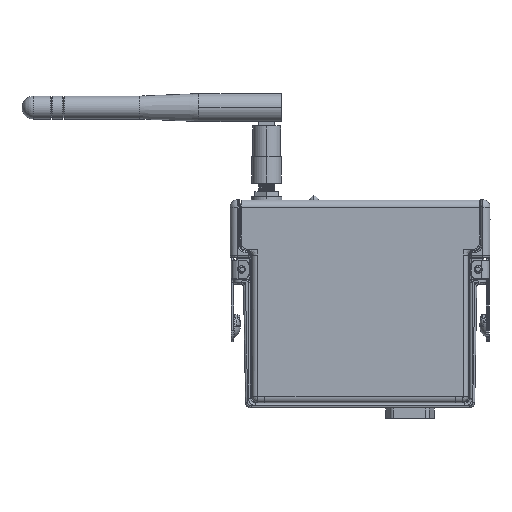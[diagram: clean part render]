
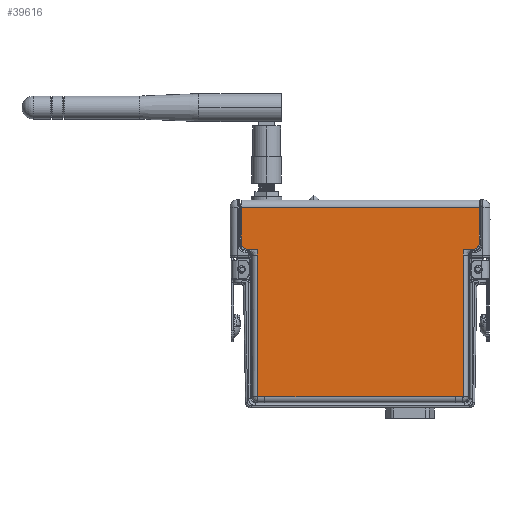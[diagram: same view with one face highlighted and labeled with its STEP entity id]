
A CAD part, left-side view. The second image highlights one B-rep face of the part: STEP entity #39616.
In plain terms, the highlighted planar face has unit normal (-1, 0, 0) as drawn and (0, 0, 1) by its records, which use the part's own axes.
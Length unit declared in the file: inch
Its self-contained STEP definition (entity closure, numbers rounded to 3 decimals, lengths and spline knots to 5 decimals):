
#38154=DIRECTION('',(-1.,0.,0.));
#38155=VECTOR('',#38154,3.179);
#38156=CARTESIAN_POINT('',(1.5895,-1.255,0.));
#38157=LINE('',#38156,#38155);
#38212=CARTESIAN_POINT('',(1.5095,-0.779,0.));
#38213=DIRECTION('',(0.,0.,1.));
#38214=DIRECTION('',(1.,0.,0.));
#38215=AXIS2_PLACEMENT_3D('',#38212,#38213,#38214);
#38217=DIRECTION('',(-1.,0.,0.));
#38218=VECTOR('',#38217,0.133);
#38219=CARTESIAN_POINT('',(1.5095,-0.699,0.));
#38220=LINE('',#38219,#38218);
#38229=DIRECTION('',(0.,1.,0.));
#38230=VECTOR('',#38229,0.476);
#38231=CARTESIAN_POINT('',(1.5895,-1.255,0.));
#38232=LINE('',#38231,#38230);
#38233=DIRECTION('',(0.,-1.,0.));
#38234=VECTOR('',#38233,0.476);
#38235=CARTESIAN_POINT('',(-1.5895,-0.779,0.));
#38236=LINE('',#38235,#38234);
#38237=DIRECTION('',(0.,-1.,0.));
#38238=VECTOR('',#38237,0.079);
#38239=CARTESIAN_POINT('',(-1.3765,-0.62,0.));
#38240=LINE('',#38239,#38238);
#38241=DIRECTION('',(-1.,0.,0.));
#38242=VECTOR('',#38241,0.105);
#38243=CARTESIAN_POINT('',(-1.2715,1.275,0.));
#38244=LINE('',#38243,#38242);
#38245=DIRECTION('',(-1.,0.,0.));
#38246=VECTOR('',#38245,0.105);
#38247=CARTESIAN_POINT('',(1.3765,1.275,0.));
#38248=LINE('',#38247,#38246);
#38249=DIRECTION('',(0.,-1.,0.));
#38250=VECTOR('',#38249,0.079);
#38251=CARTESIAN_POINT('',(1.3765,-0.62,0.));
#38252=LINE('',#38251,#38250);
#38270=CARTESIAN_POINT('',(-1.5095,-0.779,0.));
#38271=DIRECTION('',(0.,0.,1.));
#38272=DIRECTION('',(0.,1.,0.));
#38273=AXIS2_PLACEMENT_3D('',#38270,#38271,#38272);
#38307=DIRECTION('',(0.,-1.,0.));
#38308=VECTOR('',#38307,1.895);
#38309=CARTESIAN_POINT('',(1.3765,1.275,0.));
#38310=LINE('',#38309,#38308);
#38366=DIRECTION('',(-1.,0.,0.));
#38367=VECTOR('',#38366,2.543);
#38368=CARTESIAN_POINT('',(1.2715,1.275,0.));
#38369=LINE('',#38368,#38367);
#38382=DIRECTION('',(0.,-1.,0.));
#38383=VECTOR('',#38382,1.895);
#38384=CARTESIAN_POINT('',(-1.3765,1.275,0.));
#38385=LINE('',#38384,#38383);
#38417=DIRECTION('',(-1.,0.,0.));
#38418=VECTOR('',#38417,0.133);
#38419=CARTESIAN_POINT('',(-1.3765,-0.699,0.));
#38420=LINE('',#38419,#38418);
#39205=CARTESIAN_POINT('',(-1.5895,-1.255,0.));
#39206=VERTEX_POINT('',#39205);
#39207=CARTESIAN_POINT('',(1.5895,-1.255,0.));
#39208=VERTEX_POINT('',#39207);
#39237=CARTESIAN_POINT('',(1.2715,1.275,0.));
#39238=CARTESIAN_POINT('',(-1.2715,1.275,0.));
#39239=VERTEX_POINT('',#39237);
#39240=VERTEX_POINT('',#39238);
#39249=CARTESIAN_POINT('',(-1.3765,1.275,0.));
#39250=VERTEX_POINT('',#39249);
#39261=CARTESIAN_POINT('',(1.3765,1.275,0.));
#39262=VERTEX_POINT('',#39261);
#39318=CARTESIAN_POINT('',(1.5095,-0.699,0.));
#39320=VERTEX_POINT('',#39318);
#39323=CARTESIAN_POINT('',(1.5895,-0.779,0.));
#39324=VERTEX_POINT('',#39323);
#39326=CARTESIAN_POINT('',(-1.5895,-0.779,0.));
#39328=VERTEX_POINT('',#39326);
#39331=CARTESIAN_POINT('',(-1.5095,-0.699,0.));
#39332=VERTEX_POINT('',#39331);
#39353=CARTESIAN_POINT('',(-1.3765,-0.62,0.));
#39354=VERTEX_POINT('',#39353);
#39357=CARTESIAN_POINT('',(-1.3765,-0.699,0.));
#39358=VERTEX_POINT('',#39357);
#39365=CARTESIAN_POINT('',(1.3765,-0.62,0.));
#39366=CARTESIAN_POINT('',(1.3765,-0.699,0.));
#39367=VERTEX_POINT('',#39365);
#39368=VERTEX_POINT('',#39366);
#39585=CARTESIAN_POINT('',(0.,0.,0.));
#39586=DIRECTION('',(0.,0.,1.));
#39587=DIRECTION('',(1.,0.,0.));
#39588=AXIS2_PLACEMENT_3D('',#39585,#39586,#39587);
#39589=PLANE('',#39588);
#39590=ORIENTED_EDGE('',*,*,#39565,.F.);
#39591=ORIENTED_EDGE('',*,*,#39550,.F.);
#39592=ORIENTED_EDGE('',*,*,#39477,.T.);
#39594=ORIENTED_EDGE('',*,*,#39593,.F.);
#39596=ORIENTED_EDGE('',*,*,#39595,.F.);
#39598=ORIENTED_EDGE('',*,*,#39597,.F.);
#39600=ORIENTED_EDGE('',*,*,#39599,.F.);
#39602=ORIENTED_EDGE('',*,*,#39601,.F.);
#39604=ORIENTED_EDGE('',*,*,#39603,.F.);
#39606=ORIENTED_EDGE('',*,*,#39605,.F.);
#39608=ORIENTED_EDGE('',*,*,#39607,.F.);
#39610=ORIENTED_EDGE('',*,*,#39609,.T.);
#39612=ORIENTED_EDGE('',*,*,#39611,.T.);
#39613=ORIENTED_EDGE('',*,*,#39576,.F.);
#39614=EDGE_LOOP('',(#39590,#39591,#39592,#39594,#39596,#39598,#39600,#39602,
#39604,#39606,#39608,#39610,#39612,#39613));
#39615=FACE_OUTER_BOUND('',#39614,.F.);
#39616=ADVANCED_FACE('',(#39615),#39589,.T.);
#38216=CIRCLE('',#38215,0.08);
#38274=CIRCLE('',#38273,0.08);
#39477=EDGE_CURVE('',#39208,#39206,#38157,.T.);
#39550=EDGE_CURVE('',#39208,#39324,#38232,.T.);
#39565=EDGE_CURVE('',#39324,#39320,#38216,.T.);
#39576=EDGE_CURVE('',#39320,#39368,#38220,.T.);
#39593=EDGE_CURVE('',#39328,#39206,#38236,.T.);
#39595=EDGE_CURVE('',#39332,#39328,#38274,.T.);
#39597=EDGE_CURVE('',#39358,#39332,#38420,.T.);
#39599=EDGE_CURVE('',#39354,#39358,#38240,.T.);
#39601=EDGE_CURVE('',#39250,#39354,#38385,.T.);
#39603=EDGE_CURVE('',#39240,#39250,#38244,.T.);
#39605=EDGE_CURVE('',#39239,#39240,#38369,.T.);
#39607=EDGE_CURVE('',#39262,#39239,#38248,.T.);
#39609=EDGE_CURVE('',#39262,#39367,#38310,.T.);
#39611=EDGE_CURVE('',#39367,#39368,#38252,.T.);
